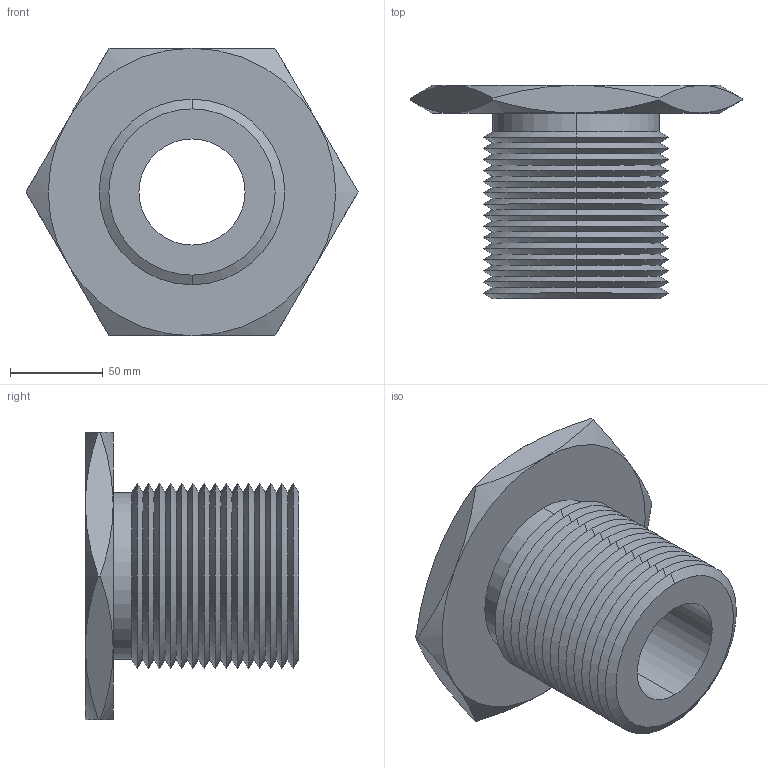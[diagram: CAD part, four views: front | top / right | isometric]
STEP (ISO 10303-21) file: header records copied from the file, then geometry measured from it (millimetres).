
FILE_DESCRIPTION (( 'STEP AP203' ), '1' );
FILE_NAME ('63302.W0100_2,25 UNC-4,5.step', '2013-12-08T11:33:51', ( 'User' ), ( '' ), 'SwSTEP 2.0', 'SolidWorks 2009', '' );
FILE_SCHEMA (( 'CONFIG_CONTROL_DESIGN' ));
Length unit declared in the file: millimetre
Products named in the file (1): 63302.W0100_2,25 UNC-4,5
Bounding box: 178.98 x 115 x 155 mm (x, y, z)
Volume: 704971 mm3; surface area: 119106.4 mm2
Topology: 1 solids, 1 shells, 87 faces, 178 edges, 94 vertices
Faces by surface type: cone 74, plane 9, cylinder 4
Entity records: 2479 total; most frequent: CARTESIAN_POINT 584, DIRECTION 412, ORIENTED_EDGE 356, EDGE_CURVE 178, AXIS2_PLACEMENT_3D 170, VERTEX_POINT 94, EDGE_LOOP 90, ADVANCED_FACE 87
